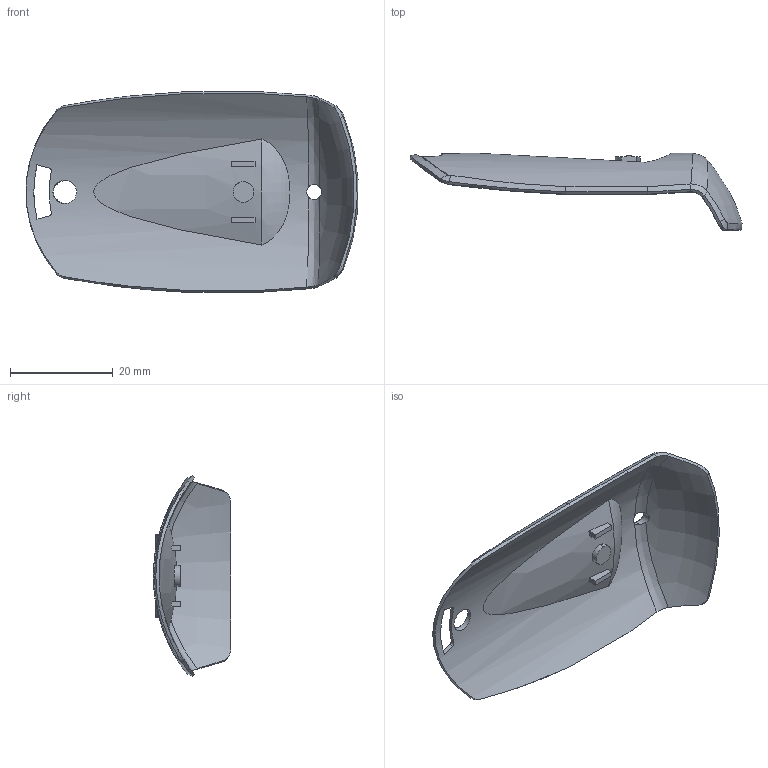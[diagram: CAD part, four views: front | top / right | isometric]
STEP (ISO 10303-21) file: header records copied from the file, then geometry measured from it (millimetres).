
FILE_DESCRIPTION (( 'STEP AP214' ), '1' );
FILE_NAME ('Junta PP102.STEP', '2018-06-05T09:00:43', ( 'aaa' ), ( '' ), 'SwSTEP 2.0', 'SolidWorks 2013', '' );
FILE_SCHEMA (( 'AUTOMOTIVE_DESIGN' ));
Length unit declared in the file: millimetre
Products named in the file (1): Junta PP102
Bounding box: 64.53 x 15 x 38.88 mm (x, y, z)
Volume: 3017.7 mm3; surface area: 5598.2 mm2
Topology: 1 solids, 1 shells, 95 faces, 256 edges, 165 vertices
Faces by surface type: bspline 39, plane 25, cylinder 24, torus 4, cone 3
Entity records: 4848 total; most frequent: CARTESIAN_POINT 2824, ORIENTED_EDGE 512, EDGE_CURVE 256, DIRECTION 249, VERTEX_POINT 165, B_SPLINE_CURVE_WITH_KNOTS 142, EDGE_LOOP 103, FACE_OUTER_BOUND 95
